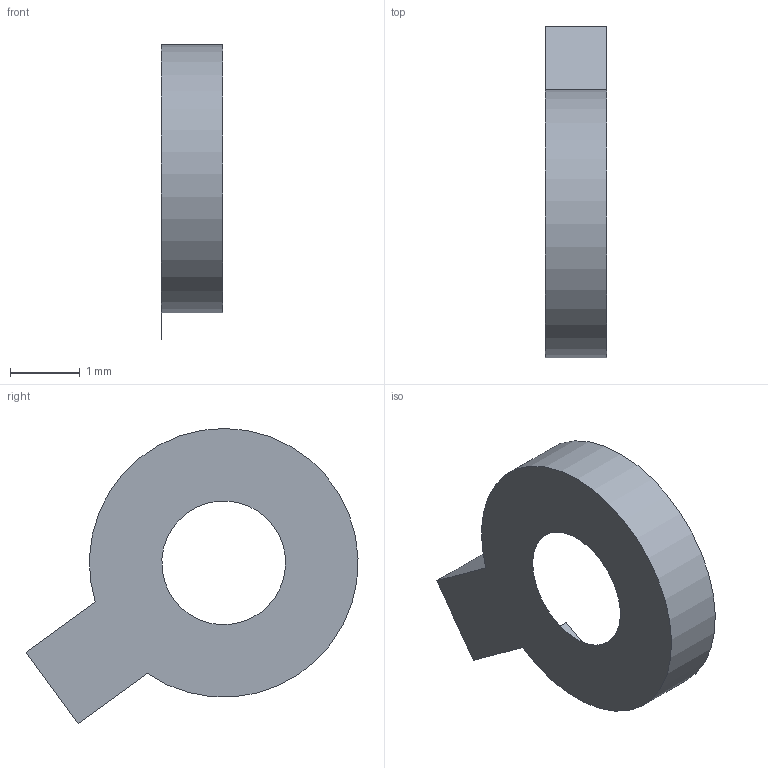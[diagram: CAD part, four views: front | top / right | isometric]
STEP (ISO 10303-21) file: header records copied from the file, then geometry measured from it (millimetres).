
FILE_DESCRIPTION(/* description */ ('STEP AP242 Edition 2','CAx-IF Rec.Pracs.---Representation and Presentation of Product Manufacturing Information (PMI)---4.0---2014-10-13','CAx-IF Rec.Pracs.---3D Tessellated Geometry---0.4---2014-09-14','2;1','CAx-IF Rec.Pracs.---User Defined Attributes---1.5---2016-08-15'),/* implementation_level */ '2;1');
FILE_NAME(/* name */ 'Part Studio 1 - Surface 35',/* time_stamp */ '2026-11-25T23:28:52Z',/* author */ (''),/* organization */ (''),/* preprocessor_version */ 'ST-DEVELOPER v20',/* originating_system */ 'ONSHAPE BY PTC INC, 1.224',/* authorisation */ ' ');
FILE_SCHEMA (('AP242_MANAGED_MODEL_BASED_3D_ENGINEERING_MIM_LF { 1 0 10303 442 3 1 4 }'));
Length unit declared in the file: metre
Products named in the file (1): NONE
Bounding box: 0.89 x 4.77 x 4.24 mm (x, y, z)
Surface area: 21.4 mm2 (no closed solid volume)
Topology: 0 solids, 1 shells, 3 faces, 11 edges, 9 vertices
Faces by surface type: plane 2, cylinder 1
Entity records: 138 total; most frequent: CARTESIAN_POINT 24, DIRECTION 23, ORIENTED_EDGE 14, EDGE_CURVE 11, VERTEX_POINT 9, AXIS2_PLACEMENT_3D 8, LINE 7, VECTOR 7
